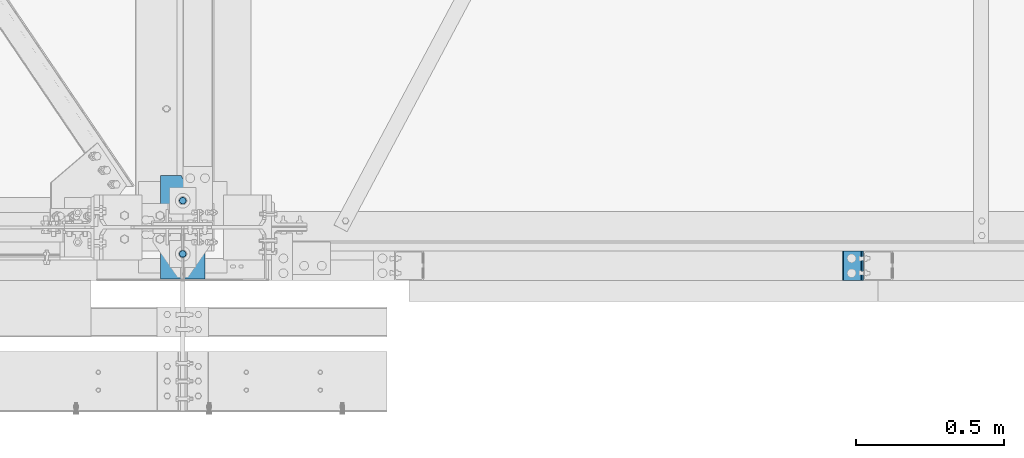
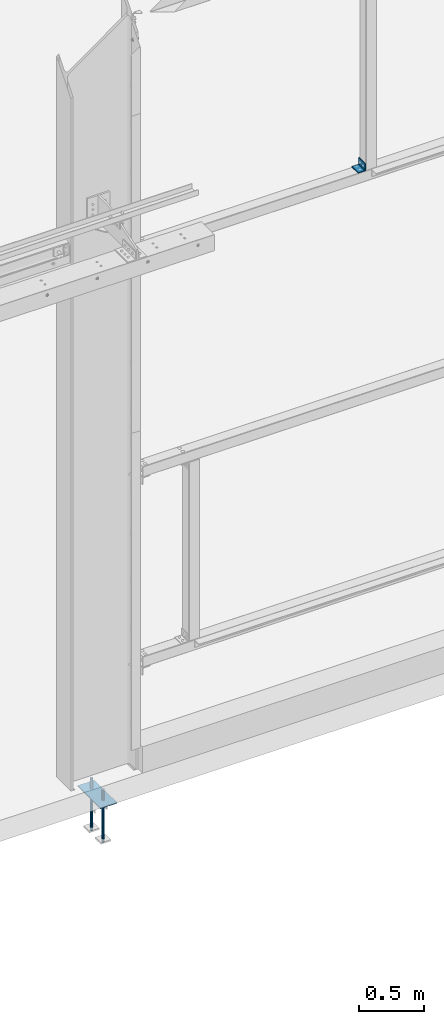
# One storey, part 88 of 362: 6 beams, 2 elements without a shape of their own.
"""IFC2X3 building model written with IfcOpenShell, lengths in millimetres."""

from ifc_helpers import new_model, si_unit, frame, origin_with_axes, origin_2d_with_axis, place, context, subcontext, project, spatial, polyline, rectangle, circle, l_section, outline, extrude, boolean, material, type_object, element, aggregate, save


model = new_model("IFC2X3")

# Units and contexts
model_context = context("Model", 3, precision=1e-05, world=origin_with_axes())
body_context = subcontext(model_context, "Body", "Model", "MODEL_VIEW")
ifc_project = project(units=[si_unit("LENGTHUNIT", "METRE", prefix="MILLI"), si_unit("AREAUNIT", "SQUARE_METRE"), si_unit("VOLUMEUNIT", "CUBIC_METRE"), si_unit("MASSUNIT", "GRAM", prefix="KILO"), si_unit("TIMEUNIT", "SECOND"), si_unit("PLANEANGLEUNIT", "RADIAN"), si_unit("SOLIDANGLEUNIT", "STERADIAN"), si_unit("THERMODYNAMICTEMPERATUREUNIT", "DEGREE_CELSIUS"), si_unit("LUMINOUSINTENSITYUNIT", "LUMEN")], contexts=[model_context])

# Site, building, storey
site_placement = place(None, origin_with_axes())
site = spatial("IfcSite", under=ifc_project, at=site_placement, Name="Undefined", CompositionType="ELEMENT")
building_placement = place(site_placement, origin_with_axes())
building = spatial("IfcBuilding", under=site, at=building_placement, Name="Undefined", CompositionType="ELEMENT")
storey_placement = place(building_placement, origin_with_axes())
storey = spatial("IfcBuildingStorey", under=building, at=storey_placement, Name="Undefined", CompositionType="ELEMENT", Elevation=0.0)

# Assembly, beam
assembly_1_placement = place(storey_placement, origin_with_axes())
assembly_1 = element("IfcElementAssembly", 1, at=assembly_1_placement, inside=storey, AssemblyPlace="NOTDEFINED", PredefinedType="NOTDEFINED")
ifc_material = material(Name="Undefined/S235-E24")
beam_type_1 = type_object("IfcBeamType", Name="L70*7", PredefinedType="NOTDEFINED")
beam_1_placement = place(assembly_1_placement, frame((31144.999999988, -80.0000086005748, 5035.0), z_axis=(0.0, 0.0, 1.0), x_axis=(0.0, -1.0, 0.0)))
beam_1 = element("IfcBeam", 2, at=beam_1_placement, type_object=beam_type_1, material=ifc_material, Name="ATTACHE", ObjectType="L70*7", context=body_context, shape_type="SweptSolid", body=[
    extrude(l_section(Depth=70.0, Width=70.0, Thickness=7.0, FilletRadius=9.0, EdgeRadius=4.5, at=origin_2d_with_axis()), frame((99.9999999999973, -1.63709046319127e-11, 7.73070496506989e-12), z_axis=(-1.0, 0.0, 0.0), x_axis=(0.0, -1.0, 0.0)), (0.0, 0.0, 1.0), 100.0),
])
aggregate(assembly_1, [beam_1])

# Assembly, beams
assembly_2_placement = place(storey_placement, origin_with_axes())
assembly_2 = element("IfcElementAssembly", 3, at=assembly_2_placement, inside=storey, Name="PRESCELLEMENT PS24", AssemblyPlace="NOTDEFINED", PredefinedType="NOTDEFINED")
beam_type_2 = type_object("IfcBeamType", Name="D24", PredefinedType="NOTDEFINED")
beam_2_placement = place(assembly_2_placement, frame((28880.0, -90.0028495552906, -100.0), z_axis=(-1.0, 0.0, 0.0), x_axis=(0.0, 0.0, -1.0)))
beam_2 = element("IfcBeam", 4, at=beam_2_placement, type_object=beam_type_2, material=ifc_material, Name="TIGE D'ANCRAGE", ObjectType="D24", context=body_context, shape_type="SweptSolid", body=[
    extrude(circle(Radius=12.0, at=origin_2d_with_axis()), frame((150.0, 0.0, 0.0), z_axis=(-1.0, 0.0, 0.0), x_axis=(0.0, -1.0, 0.0)), (0.0, 0.0, 1.0), 150.0),
])
beam_3_placement = place(assembly_2_placement, frame((28880.0, 89.9971504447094, -100.0), z_axis=(-1.0, 0.0, 0.0), x_axis=(0.0, 0.0, -1.0)))
beam_3 = element("IfcBeam", 5, at=beam_3_placement, type_object=beam_type_2, material=ifc_material, Name="TIGE D'ANCRAGE", ObjectType="D24", context=body_context, shape_type="SweptSolid", body=[
    extrude(circle(Radius=12.0, at=origin_2d_with_axis()), frame((150.0, 0.0, 0.0), z_axis=(-1.0, 0.0, 0.0), x_axis=(0.0, -1.0, 0.0)), (0.0, 0.0, 1.0), 150.0),
])
beam_type_3 = type_object("IfcBeamType", Name="D22", PredefinedType="NOTDEFINED")
beam_4_placement = place(assembly_2_placement, frame((28880.0, -90.0028495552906, -250.0), z_axis=(-1.0, 0.0, 0.0), x_axis=(0.0, 0.0, -1.0)))
beam_4 = element("IfcBeam", 6, at=beam_4_placement, type_object=beam_type_3, material=ifc_material, Name="TIGE D'ANCRAGE", ObjectType="D22", context=body_context, shape_type="SweptSolid", body=[
    extrude(circle(Radius=11.0, at=origin_2d_with_axis()), frame((350.0, 0.0, 0.0), z_axis=(-1.0, 0.0, 0.0), x_axis=(0.0, -1.0, 0.0)), (0.0, 0.0, 1.0), 350.0),
])
beam_5_placement = place(assembly_2_placement, frame((28880.0, 89.9971504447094, -250.0), z_axis=(-1.0, 0.0, 0.0), x_axis=(0.0, 0.0, -1.0)))
beam_5 = element("IfcBeam", 7, at=beam_5_placement, type_object=beam_type_3, material=ifc_material, Name="TIGE D'ANCRAGE", ObjectType="D22", context=body_context, shape_type="SweptSolid", body=[
    extrude(circle(Radius=11.0, at=origin_2d_with_axis()), frame((350.0, 0.0, 0.0), z_axis=(-1.0, 0.0, 0.0), x_axis=(0.0, -1.0, 0.0)), (0.0, 0.0, 1.0), 350.0),
])
beam_type_4 = type_object("IfcBeamType", Name="PL10*150", PredefinedType="NOTDEFINED")
beam_6_placement = place(assembly_2_placement, frame((28880.0, 175.0, -205.0), z_axis=(1.0, 0.0, 0.0), x_axis=(0.0, -1.0, 0.0)))
beam_6 = element("IfcBeam", 8, at=beam_6_placement, type_object=beam_type_4, material=ifc_material, Name="PRESCELLEMENT PS24", ObjectType="PL10*150", context=body_context, shape_type="CSG", body=[
    boolean("DIFFERENCE", boolean("DIFFERENCE", boolean("DIFFERENCE", boolean("DIFFERENCE", extrude(rectangle(XDim=10.0, YDim=150.0, at=origin_2d_with_axis()), frame((350.0, 0.0, 0.0), z_axis=(-1.0, 0.0, 0.0), x_axis=(0.0, -1.0, 0.0)), (0.0, 0.0, 1.0), 350.0), extrude(outline(polyline([(0.0, 0.0), (11.1803398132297, 1.2732925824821e-11), (4.47213602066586, 8.94427204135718), (0.0, 0.0)])), frame((0.0, 7.5, -5.0), z_axis=(0.0, -1.0, 0.0), x_axis=(0.894427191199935, 0.0, 0.44721359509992)), (0.0, 0.0, 1.0), 15.0)), extrude(outline(polyline([(0.0, 0.0), (11.1803398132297, 1.2732925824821e-11), (4.47213602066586, 8.94427204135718), (0.0, 0.0)])), frame((180.0, 7.5, -75.0), z_axis=(0.0, -1.0, 0.0), x_axis=(-0.447213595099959, 0.0, 0.894427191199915)), (0.0, 0.0, 1.0), 15.0)), extrude(outline(polyline([(0.0, 0.0), (11.1803398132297, 1.2732925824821e-11), (6.70820379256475, 8.94427204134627), (0.0, 0.0)])), frame((340.0, 7.5, 0.0), z_axis=(0.0, -1.0, 0.0), x_axis=(0.894427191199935, 0.0, -0.44721359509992)), (0.0, 0.0, 1.0), 15.0)), extrude(outline(polyline([(0.0, 0.0), (11.1803398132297, 1.2732925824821e-11), (4.47213602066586, 8.94427204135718), (0.0, 0.0)])), frame((170.0, 7.5, 75.0), z_axis=(0.0, -1.0, 0.0), x_axis=(0.447213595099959, 0.0, -0.894427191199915)), (0.0, 0.0, 1.0), 15.0)),
])
aggregate(assembly_2, [beam_2, beam_4, beam_3, beam_5, beam_6])

save(model, "model.ifc")
